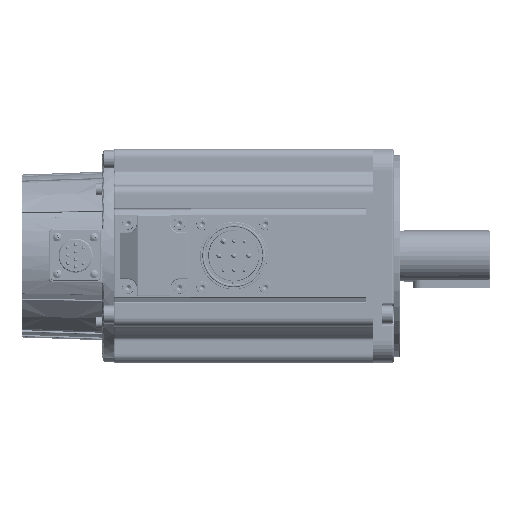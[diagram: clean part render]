
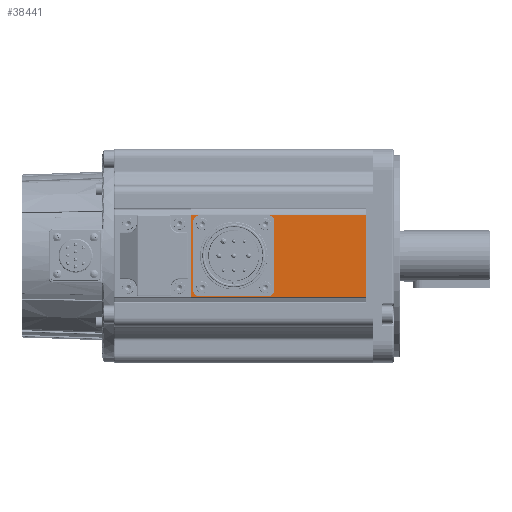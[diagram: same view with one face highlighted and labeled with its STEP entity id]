
A CAD part, top view. The second image highlights one B-rep face of the part: STEP entity #38441.
In plain terms, the highlighted planar face has unit normal (0, 0, 1) as drawn and (-1, 0, 0) by its records, which use the part's own axes.
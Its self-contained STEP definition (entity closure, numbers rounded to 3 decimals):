
#359 = DIRECTION ( 'NONE',  ( -1., 0., 0. ) ) ;
#913 = FACE_BOUND ( 'NONE', #30665, .T. ) ;
#1836 = DIRECTION ( 'NONE',  ( 0., -1., 0. ) ) ;
#3562 = FACE_BOUND ( 'NONE', #86761, .T. ) ;
#4904 = DIRECTION ( 'NONE',  ( 1., 0., 0. ) ) ;
#5576 = CARTESIAN_POINT ( 'NONE',  ( -50., 19.3, 82. ) ) ;
#6453 = VERTEX_POINT ( 'NONE', #58241 ) ;
#7237 = AXIS2_PLACEMENT_3D ( 'NONE', #75072, #100258, #57039 ) ;
#7425 = CARTESIAN_POINT ( 'NONE',  ( -50., -14.1, 34.1 ) ) ;
#7618 = FACE_BOUND ( 'NONE', #33065, .T. ) ;
#9746 = DIRECTION ( 'NONE',  ( 0., 0., 1. ) ) ;
#10464 = CARTESIAN_POINT ( 'NONE',  ( -50., 19.5, 82. ) ) ;
#10549 = VERTEX_POINT ( 'NONE', #35097 ) ;
#11246 = CIRCLE ( 'NONE', #103225, 1.25 ) ;
#11693 = DIRECTION ( 'NONE',  ( 0., -1., 0. ) ) ;
#12268 = ORIENTED_EDGE ( 'NONE', *, *, #55092, .T. ) ;
#12930 = CIRCLE ( 'NONE', #31361, 1.25 ) ;
#14554 = DIRECTION ( 'NONE',  ( 0., 0., 1. ) ) ;
#15783 = CARTESIAN_POINT ( 'NONE',  ( -50., 14.1, 34.1 ) ) ;
#16369 = CIRCLE ( 'NONE', #106361, 10. ) ;
#16439 = VERTEX_POINT ( 'NONE', #66244 ) ;
#16733 = CARTESIAN_POINT ( 'NONE',  ( -50., -14.1, 7.15 ) ) ;
#18173 = ORIENTED_EDGE ( 'NONE', *, *, #74158, .F. ) ;
#18808 = AXIS2_PLACEMENT_3D ( 'NONE', #55824, #90396, #65199 ) ;
#18922 = CARTESIAN_POINT ( 'NONE',  ( -50., 0., 16.5 ) ) ;
#19016 = CARTESIAN_POINT ( 'NONE',  ( -50., 14.1, 32.85 ) ) ;
#19282 = DIRECTION ( 'NONE',  ( -1., 0., 0. ) ) ;
#21209 = DIRECTION ( 'NONE',  ( 0., -1., 0. ) ) ;
#21802 = EDGE_CURVE ( 'NONE', #43952, #6453, #111274, .T. ) ;
#21932 = CARTESIAN_POINT ( 'NONE',  ( -50., 14.1, 34.1 ) ) ;
#22432 = VERTEX_POINT ( 'NONE', #100755 ) ;
#22595 = AXIS2_PLACEMENT_3D ( 'NONE', #21932, #83602, #65168 ) ;
#23170 = ORIENTED_EDGE ( 'NONE', *, *, #42783, .F. ) ;
#23409 = EDGE_CURVE ( 'NONE', #69105, #41824, #87124, .T. ) ;
#25367 = ORIENTED_EDGE ( 'NONE', *, *, #61752, .T. ) ;
#26702 = ORIENTED_EDGE ( 'NONE', *, *, #72199, .F. ) ;
#29616 = EDGE_LOOP ( 'NONE', ( #26702, #46250, #25367, #12268 ) ) ;
#30190 = LINE ( 'NONE', #63887, #96109 ) ;
#30665 = EDGE_LOOP ( 'NONE', ( #107811, #95564 ) ) ;
#30790 = CARTESIAN_POINT ( 'NONE',  ( -50., 19.5, 82. ) ) ;
#31361 = AXIS2_PLACEMENT_3D ( 'NONE', #7425, #57396, #14554 ) ;
#31964 = CARTESIAN_POINT ( 'NONE',  ( -50., -10., 16.5 ) ) ;
#32602 = ORIENTED_EDGE ( 'NONE', *, *, #81182, .F. ) ;
#32718 = CIRCLE ( 'NONE', #73337, 1.25 ) ;
#33065 = EDGE_LOOP ( 'NONE', ( #32602, #51887 ) ) ;
#35097 = CARTESIAN_POINT ( 'NONE',  ( -50., 14.1, 35.35 ) ) ;
#35956 = DIRECTION ( 'NONE',  ( 0., 0., 1. ) ) ;
#36486 = DIRECTION ( 'NONE',  ( 0., 0., 1. ) ) ;
#38441 = ADVANCED_FACE ( 'NONE', ( #109740, #73463, #3562, #7618, #913, #96315 ), #55633, .F. ) ;
#38533 = AXIS2_PLACEMENT_3D ( 'NONE', #15783, #101813, #84936 ) ;
#40209 = VECTOR ( 'NONE', #103665, 1000. ) ;
#41824 = VERTEX_POINT ( 'NONE', #48073 ) ;
#41917 = EDGE_LOOP ( 'NONE', ( #18173, #23170 ) ) ;
#42648 = EDGE_LOOP ( 'NONE', ( #58173, #52028 ) ) ;
#42783 = EDGE_CURVE ( 'NONE', #86695, #85698, #107412, .T. ) ;
#43952 = VERTEX_POINT ( 'NONE', #31964 ) ;
#44723 = VERTEX_POINT ( 'NONE', #19016 ) ;
#45636 = CIRCLE ( 'NONE', #38533, 1.25 ) ;
#46250 = ORIENTED_EDGE ( 'NONE', *, *, #96307, .T. ) ;
#48073 = CARTESIAN_POINT ( 'NONE',  ( -50., 14.1, 7.15 ) ) ;
#51887 = ORIENTED_EDGE ( 'NONE', *, *, #23409, .F. ) ;
#52028 = ORIENTED_EDGE ( 'NONE', *, *, #90651, .F. ) ;
#55092 = EDGE_CURVE ( 'NONE', #16439, #74423, #93598, .T. ) ;
#55633 = PLANE ( 'NONE',  #99081 ) ;
#55824 = CARTESIAN_POINT ( 'NONE',  ( -50., -14.1, 5.9 ) ) ;
#56430 = CIRCLE ( 'NONE', #22595, 1.25 ) ;
#56847 = VERTEX_POINT ( 'NONE', #92364 ) ;
#56957 = CARTESIAN_POINT ( 'NONE',  ( -50., 14.1, 4.65 ) ) ;
#57039 = DIRECTION ( 'NONE',  ( 0., 0., 1. ) ) ;
#57396 = DIRECTION ( 'NONE',  ( -1., 0., 0. ) ) ;
#58173 = ORIENTED_EDGE ( 'NONE', *, *, #66918, .F. ) ;
#58241 = CARTESIAN_POINT ( 'NONE',  ( -50., 10., 16.5 ) ) ;
#59626 = CARTESIAN_POINT ( 'NONE',  ( -50., -14.1, 32.85 ) ) ;
#60080 = DIRECTION ( 'NONE',  ( -1., 0., 0. ) ) ;
#61024 = DIRECTION ( 'NONE',  ( 0., -1., 0. ) ) ;
#61752 = EDGE_CURVE ( 'NONE', #22432, #16439, #30190, .T. ) ;
#63162 = CARTESIAN_POINT ( 'NONE',  ( -50., -19.3, 82. ) ) ;
#63684 = DIRECTION ( 'NONE',  ( -1., 0., 0. ) ) ;
#63887 = CARTESIAN_POINT ( 'NONE',  ( -50., 19.5, 0. ) ) ;
#65168 = DIRECTION ( 'NONE',  ( 0., 0., 1. ) ) ;
#65199 = DIRECTION ( 'NONE',  ( 0., 0., 1. ) ) ;
#66244 = CARTESIAN_POINT ( 'NONE',  ( -50., -19.3, 0. ) ) ;
#66918 = EDGE_CURVE ( 'NONE', #10549, #44723, #56430, .T. ) ;
#69105 = VERTEX_POINT ( 'NONE', #56957 ) ;
#69118 = CARTESIAN_POINT ( 'NONE',  ( -50., 14.1, 5.9 ) ) ;
#71005 = LINE ( 'NONE', #10464, #97856 ) ;
#71183 = CARTESIAN_POINT ( 'NONE',  ( -50., -19.3, 82. ) ) ;
#72199 = EDGE_CURVE ( 'NONE', #86572, #74423, #71005, .T. ) ;
#73318 = DIRECTION ( 'NONE',  ( 0., 0., 1. ) ) ;
#73337 = AXIS2_PLACEMENT_3D ( 'NONE', #93932, #60080, #9746 ) ;
#73463 = FACE_BOUND ( 'NONE', #41917, .T. ) ;
#74158 = EDGE_CURVE ( 'NONE', #85698, #86695, #12930, .T. ) ;
#74423 = VERTEX_POINT ( 'NONE', #71183 ) ;
#75072 = CARTESIAN_POINT ( 'NONE',  ( -50., -14.1, 34.1 ) ) ;
#76559 = AXIS2_PLACEMENT_3D ( 'NONE', #99250, #108933, #73318 ) ;
#76586 = EDGE_CURVE ( 'NONE', #6453, #43952, #16369, .T. ) ;
#76797 = CARTESIAN_POINT ( 'NONE',  ( -50., -14.1, 35.35 ) ) ;
#77894 = LINE ( 'NONE', #86430, #40209 ) ;
#81182 = EDGE_CURVE ( 'NONE', #41824, #69105, #11246, .T. ) ;
#81663 = VERTEX_POINT ( 'NONE', #16733 ) ;
#81751 = CARTESIAN_POINT ( 'NONE',  ( -50., 0., 16.5 ) ) ;
#82297 = DIRECTION ( 'NONE',  ( 0., 1., 0. ) ) ;
#83602 = DIRECTION ( 'NONE',  ( -1., 0., 0. ) ) ;
#84936 = DIRECTION ( 'NONE',  ( 0., 0., 1. ) ) ;
#85698 = VERTEX_POINT ( 'NONE', #76797 ) ;
#86430 = CARTESIAN_POINT ( 'NONE',  ( -50., 19.3, 82. ) ) ;
#86572 = VERTEX_POINT ( 'NONE', #5576 ) ;
#86695 = VERTEX_POINT ( 'NONE', #59626 ) ;
#86761 = EDGE_LOOP ( 'NONE', ( #87319, #106169 ) ) ;
#87124 = CIRCLE ( 'NONE', #76559, 1.25 ) ;
#87319 = ORIENTED_EDGE ( 'NONE', *, *, #99394, .F. ) ;
#90396 = DIRECTION ( 'NONE',  ( -1., 0., 0. ) ) ;
#90651 = EDGE_CURVE ( 'NONE', #44723, #10549, #45636, .T. ) ;
#92364 = CARTESIAN_POINT ( 'NONE',  ( -50., -14.1, 4.65 ) ) ;
#93598 = LINE ( 'NONE', #63162, #102929 ) ;
#93932 = CARTESIAN_POINT ( 'NONE',  ( -50., -14.1, 5.9 ) ) ;
#94843 = EDGE_CURVE ( 'NONE', #56847, #81663, #101044, .T. ) ;
#95564 = ORIENTED_EDGE ( 'NONE', *, *, #76586, .F. ) ;
#96109 = VECTOR ( 'NONE', #11693, 1000. ) ;
#96307 = EDGE_CURVE ( 'NONE', #86572, #22432, #77894, .T. ) ;
#96315 = FACE_OUTER_BOUND ( 'NONE', #29616, .T. ) ;
#97856 = VECTOR ( 'NONE', #1836, 1000. ) ;
#99081 = AXIS2_PLACEMENT_3D ( 'NONE', #30790, #4904, #82297 ) ;
#99250 = CARTESIAN_POINT ( 'NONE',  ( -50., 14.1, 5.9 ) ) ;
#99394 = EDGE_CURVE ( 'NONE', #81663, #56847, #32718, .T. ) ;
#100258 = DIRECTION ( 'NONE',  ( -1., 0., 0. ) ) ;
#100755 = CARTESIAN_POINT ( 'NONE',  ( -50., 19.3, 0. ) ) ;
#101044 = CIRCLE ( 'NONE', #18808, 1.25 ) ;
#101514 = AXIS2_PLACEMENT_3D ( 'NONE', #81751, #63684, #21209 ) ;
#101813 = DIRECTION ( 'NONE',  ( -1., 0., 0. ) ) ;
#102929 = VECTOR ( 'NONE', #36486, 1000. ) ;
#103225 = AXIS2_PLACEMENT_3D ( 'NONE', #69118, #359, #35956 ) ;
#103665 = DIRECTION ( 'NONE',  ( 0., 0., -1. ) ) ;
#106169 = ORIENTED_EDGE ( 'NONE', *, *, #94843, .F. ) ;
#106361 = AXIS2_PLACEMENT_3D ( 'NONE', #18922, #19282, #61024 ) ;
#107412 = CIRCLE ( 'NONE', #7237, 1.25 ) ;
#107811 = ORIENTED_EDGE ( 'NONE', *, *, #21802, .F. ) ;
#108933 = DIRECTION ( 'NONE',  ( -1., 0., 0. ) ) ;
#109740 = FACE_BOUND ( 'NONE', #42648, .T. ) ;
#111274 = CIRCLE ( 'NONE', #101514, 10. ) ;
